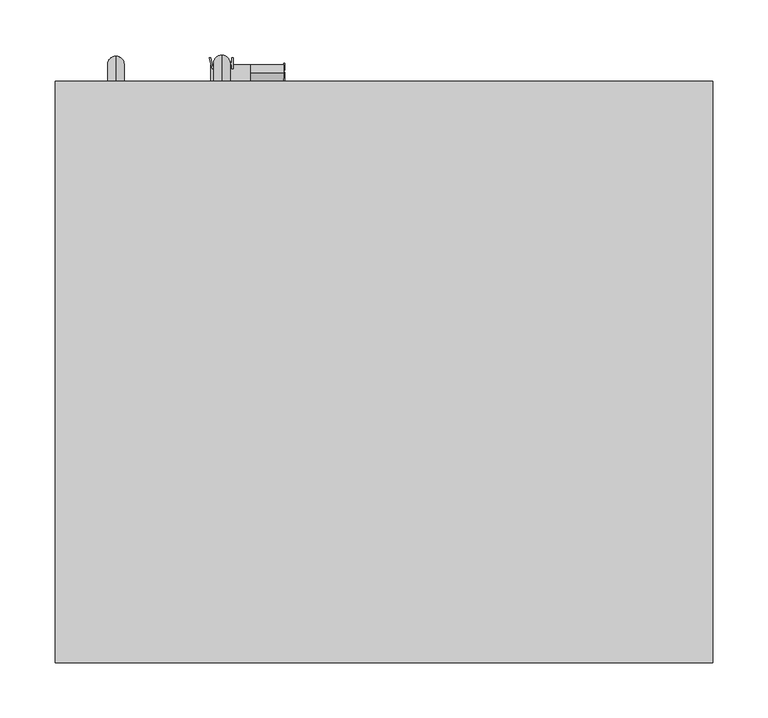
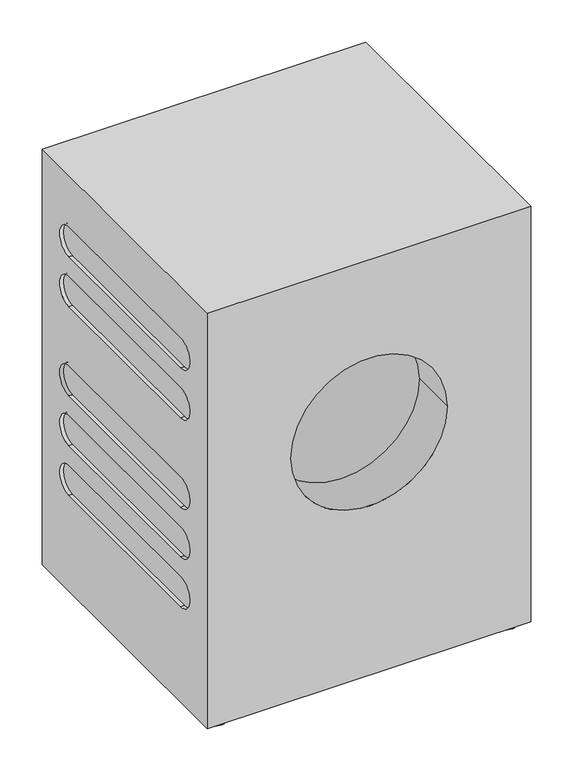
"""IFC4 building model written with IfcOpenShell, lengths in millimetres: proxy geometry, 12149030_GB_WED164WCS_LW : 11ED1641_GB_12149030_WED164WCS_LW."""

from ifc_helpers import new_model, si_unit, point, frame, frame_2d, origin, origin_with_axes, place, context, project, spatial, polyline, circle_curve, ellipse_curve, trimmed, segment, composite_curve, outline, extrude, source, transform, mapped, element, save
from ifc_brep_helpers import plane_surface, cylinder_surface, revolved_surface, advanced_brep


def specialty_equipment_4a6f3dc0(model_context):
    return source(origin(), model_context, "Body", "SolidModel", [
        extrude(outline(polyline([(-149.0371951, -21.0084005), (-151.6315375, -12.2193606), (-154.3585613, -21.0080758), (-155.6936613, -21.0080758), (-158.4385926, -10.9516208), (-157.1428433, -10.9516208), (-155.0531898, -19.5918192), (-152.5429567, -10.9458994), (-150.6799918, -10.9458994), (-148.1641319, -19.590755), (-146.0770725, -10.9449641), (-144.784355, -10.9449641), (-147.5264421, -21.0084005), (-149.0371951, -21.0084005)])), frame((0.0, 0.0, 728.0), z_axis=(0.0, 0.0, 1.0), x_axis=(1.0, 0.0, 0.0)), (0.0, 0.0, 1.0), 1.0),
        extrude(outline(polyline([(-137.7520367, -21.0), (-137.7520367, -17.5380382), (-139.4320631, -15.9333791), (-143.267056, -20.9969068), (-144.8092352, -20.9969068), (-140.3268814, -15.0786372), (-144.6471582, -10.9521715), (-142.8938795, -10.9521715), (-137.7520367, -15.8633471), (-137.7520367, -10.9502531), (-136.4793974, -10.9502531), (-136.4793974, -21.0), (-137.7520367, -21.0)])), frame((0.0, 0.0, 728.0), z_axis=(0.0, 0.0, 1.0), x_axis=(1.0, 0.0, 0.0)), (0.0, 0.0, 1.0), 1.0),
        advanced_brep(
        [(-243.0, -32.0, 760.5), (-243.0, -32.0, 745.5), (-243.0, -9.5, 760.5), (-243.0, -24.5, 745.5), (-243.0, -9.5, 723.0), (-243.0, -24.5, 723.0)],
        [
            (0, 1, circle_curve(frame((-243.0, -32.0, 753.0), z_axis=(0.0, -1.0, 0.0), x_axis=(0.0, 0.0, -1.0)), 7.5)),
            (1, 0, circle_curve(frame((-243.0, -32.0, 753.0), z_axis=(0.0, -1.0, 0.0), x_axis=(0.0, 0.0, -1.0)), 7.5)),
            (0, 2),
            (2, 3, ellipse_curve(frame((-243.0, -17.0, 753.0), z_axis=(0.0, -0.7071067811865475, 0.7071067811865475), x_axis=(0.0, -0.7071067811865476, -0.7071067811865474)), 10.6066017, 7.5)),
            (3, 1),
            (3, 2, ellipse_curve(frame((-243.0, -17.0, 753.0), z_axis=(0.0, -0.7071067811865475, 0.7071067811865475), x_axis=(0.0, -0.7071067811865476, -0.7071067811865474)), 10.6066017, 7.5)),
            (4, 5, circle_curve(frame((-243.0, -17.0, 723.0), z_axis=(0.0, 0.0, -1.0), x_axis=(0.0, -1.0, 0.0)), 7.5)),
            (5, 4, circle_curve(frame((-243.0, -17.0, 723.0), z_axis=(0.0, 0.0, -1.0), x_axis=(0.0, -1.0, 0.0)), 7.5)),
            (2, 4),
            (5, 3),
        ],
        [
            plane_surface(frame((-243.0, -32.0, 753.0), z_axis=(0.0, -1.0, 0.0), x_axis=(-1.0, 0.0, 0.0))),
            cylinder_surface(frame((-243.0, -32.0, 753.0), z_axis=(0.0, -1.0, 0.0), x_axis=(0.0, 0.0, -1.0)), 7.5),
            plane_surface(frame((-243.0, -17.0, 723.0), z_axis=(0.0, 0.0, -1.0), x_axis=(-1.0, 0.0, 0.0))),
            cylinder_surface(frame((-243.0, -17.0, 753.0), z_axis=(0.0, 0.0, 1.0), x_axis=(0.0, -1.0, 0.0)), 7.5),
        ],
        [
            (0, [[1, 2]]),
            (1, [[-1, 3, 4, 5]]),
            (1, [[-2, -5, 6, -3]]),
            (2, [[7, 8]]),
            (3, [[-4, 9, -8, 10]]),
            (3, [[-6, -10, -7, -9]]),
        ],
    ),
        advanced_brep(
        [(-147.0, -32.0, 766.5), (-147.0, -32.0, 751.5), (-147.0, -8.5, 766.5), (-147.0, -23.5, 751.5), (-147.0, -8.5, 729.0), (-147.0, -23.5, 729.0)],
        [
            (0, 1, circle_curve(frame((-147.0, -32.0, 759.0), z_axis=(0.0, -1.0, 0.0), x_axis=(0.0, 0.0, -1.0)), 7.5)),
            (1, 0, circle_curve(frame((-147.0, -32.0, 759.0), z_axis=(0.0, -1.0, 0.0), x_axis=(0.0, 0.0, -1.0)), 7.5)),
            (0, 2),
            (2, 3, ellipse_curve(frame((-147.0, -16.0, 759.0), z_axis=(0.0, -0.70710678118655, 0.707106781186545), x_axis=(0.0, -0.7071067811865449, -0.70710678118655)), 10.6066017, 7.5)),
            (3, 1),
            (3, 2, ellipse_curve(frame((-147.0, -16.0, 759.0), z_axis=(0.0, -0.70710678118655, 0.707106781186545), x_axis=(0.0, -0.7071067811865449, -0.70710678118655)), 10.6066017, 7.5)),
            (4, 5, circle_curve(frame((-147.0, -16.0, 729.0), z_axis=(0.0, 0.0, -1.0), x_axis=(0.0, -1.0, 0.0)), 7.5)),
            (5, 4, circle_curve(frame((-147.0, -16.0, 729.0), z_axis=(0.0, 0.0, -1.0), x_axis=(0.0, -1.0, 0.0)), 7.5)),
            (2, 4),
            (5, 3),
        ],
        [
            plane_surface(frame((-147.0, -32.0, 759.0), z_axis=(0.0, -1.0, 0.0), x_axis=(-1.0, 0.0, 0.0))),
            cylinder_surface(frame((-147.0, -32.0, 759.0), z_axis=(0.0, -1.0, 0.0), x_axis=(0.0, 0.0, -1.0)), 7.5),
            plane_surface(frame((-147.0, -16.0, 729.0), z_axis=(0.0, 0.0, -1.0), x_axis=(-1.0, 0.0, 0.0))),
            cylinder_surface(frame((-147.0, -16.0, 759.0), z_axis=(0.0, 0.0, 1.0), x_axis=(0.0, -1.0, 0.0)), 7.5),
        ],
        [
            (0, [[1, 2]]),
            (1, [[-1, 3, 4, 5]]),
            (1, [[-2, -5, 6, -3]]),
            (2, [[7, 8]]),
            (3, [[-4, 9, -8, 10]]),
            (3, [[-6, -10, -7, -9]]),
        ],
    ),
        extrude(outline(polyline([(-24.1489694, 55.8141378), (-30.1201763, 55.8141378), (-30.1201763, 52.8005704), (-24.4569949, 52.8005704), (-24.4569949, 51.521084), (-30.1201763, 51.521084), (-30.1201763, 48.2496698), (-23.9879713, 48.2496698), (-23.9879713, 46.9701834), (-31.3464231, 46.9701834), (-31.3464231, 57.0455767), (-24.1489694, 57.0455767), (-24.1489694, 55.8141378)])), frame((-91.0, 0.0, 0.0), z_axis=(1.0, 0.0, 0.0), x_axis=(0.0, 1.0, 0.0)), (0.0, 0.0, 1.0), 1.0),
        extrude(outline(polyline([(-20.8531587, 57.0429653), (-20.8531587, 48.2519801), (-15.8267296, 48.2519801), (-15.8267296, 46.9971234), (-22.1029105, 46.9971234), (-22.1029105, 57.0429653), (-20.8531587, 57.0429653)])), frame((-91.0, 0.0, 0.0), z_axis=(1.0, 0.0, 0.0), x_axis=(0.0, 1.0, 0.0)), (0.0, 0.0, 1.0), 1.0),
        extrude(outline(composite_curve([segment(trimmed(circle_curve(frame_2d((-24.5, 52.0)), 7.5), [point((-24.5, 44.5))], [point((-24.5, 59.5))], False, "CARTESIAN"), True, "CONTINUOUS"), segment(trimmed(circle_curve(frame_2d((-24.5, 52.0)), 7.5), [point((-24.5, 59.5))], [point((-24.5, 44.5))], False, "CARTESIAN"), True, "CONTINUOUS")], self_intersect=False)), frame((-121.0, 0.0, 0.0), z_axis=(1.0, 0.0, 0.0), x_axis=(0.0, 1.0, 0.0)), (0.0, 0.0, 1.0), 30.0),
        extrude(outline(polyline([(-157.0, -17.0), (-121.0, -17.0), (-121.0, -32.0), (-157.0, -32.0), (-157.0, -17.0)])), frame((0.0, 0.0, 38.5), z_axis=(0.0, 0.0, 1.0), x_axis=(1.0, 0.0, 0.0)), (0.0, 0.0, 1.0), 27.0),
        advanced_brep(
        [(298.0, -32.0, 818.0), (-298.0, -32.0, 818.0), (-298.0, -559.0, 818.0), (298.0, -559.0, 818.0), (298.0, -32.0, 8.0), (298.0, -559.0, 8.0), (-298.0, -559.0, 8.0), (-298.0, -32.0, 8.0), (-298.0, -117.0, 253.0), (-298.0, -474.0, 253.0), (-298.0, -474.0, 195.0), (-298.0, -117.0, 195.0), (-298.0, -117.0, 350.0), (-298.0, -474.0, 350.0), (-298.0, -474.0, 292.0), (-298.0, -117.0, 292.0), (-298.0, -474.0, 563.0), (-298.0, -117.0, 563.0), (-298.0, -117.0, 621.0), (-298.0, -474.0, 621.0), (-298.0, -117.0, 718.0), (-298.0, -474.0, 718.0), (-298.0, -474.0, 660.0), (-298.0, -117.0, 660.0), (-298.0, -117.0, 447.0), (-298.0, -474.0, 447.0), (-298.0, -474.0, 389.0), (-298.0, -117.0, 389.0), (144.0, -559.0, 482.0), (-144.0, -559.0, 482.0), (298.0, -474.0, 253.0), (298.0, -117.0, 253.0), (298.0, -117.0, 195.0), (298.0, -474.0, 195.0), (298.0, -474.0, 350.0), (298.0, -117.0, 350.0), (298.0, -117.0, 292.0), (298.0, -474.0, 292.0), (298.0, -117.0, 563.0), (298.0, -474.0, 563.0), (298.0, -474.0, 621.0), (298.0, -117.0, 621.0), (298.0, -474.0, 718.0), (298.0, -117.0, 718.0), (298.0, -117.0, 660.0), (298.0, -474.0, 660.0), (298.0, -474.0, 447.0), (298.0, -117.0, 447.0), (298.0, -117.0, 389.0), (298.0, -474.0, 389.0), (291.0, -117.0, 253.0), (291.0, -474.0, 253.0), (291.0, -474.0, 195.0), (291.0, -117.0, 195.0), (291.0, -117.0, 350.0), (291.0, -474.0, 350.0), (291.0, -474.0, 292.0), (291.0, -117.0, 292.0), (291.0, -474.0, 563.0), (291.0, -117.0, 563.0), (291.0, -117.0, 621.0), (291.0, -474.0, 621.0), (291.0, -117.0, 718.0), (291.0, -474.0, 718.0), (291.0, -474.0, 660.0), (291.0, -117.0, 660.0), (-291.0, -117.0, 253.0), (-291.0, -117.0, 195.0), (-291.0, -474.0, 195.0), (-291.0, -474.0, 253.0), (-291.0, -117.0, 350.0), (-291.0, -117.0, 292.0), (-291.0, -474.0, 292.0), (-291.0, -474.0, 350.0), (-291.0, -474.0, 563.0), (-291.0, -474.0, 621.0), (-291.0, -117.0, 621.0), (-291.0, -117.0, 563.0), (-291.0, -117.0, 718.0), (-291.0, -117.0, 660.0), (-291.0, -474.0, 660.0), (-291.0, -474.0, 718.0), (-144.0, -471.0, 482.0), (144.0, -471.0, 482.0), (240.0, -148.0, 482.0), (-240.0, -148.0, 482.0), (240.0, -471.0, 482.0), (-240.0, -471.0, 482.0), (291.0, -117.0, 447.0), (291.0, -474.0, 447.0), (291.0, -474.0, 389.0), (291.0, -117.0, 389.0), (-291.0, -117.0, 447.0), (-291.0, -117.0, 389.0), (-291.0, -474.0, 389.0), (-291.0, -474.0, 447.0)],
        [
            (0, 1),
            (1, 2),
            (2, 3),
            (3, 0),
            (4, 5),
            (5, 6),
            (6, 7),
            (7, 4),
            (0, 4),
            (7, 1),
            (6, 2),
            (8, 9),
            (9, 10, circle_curve(frame((-298.0, -474.0, 224.0), z_axis=(1.0, 0.0, 0.0), x_axis=(0.0, 0.0, 1.0)), 29.0)),
            (10, 11),
            (11, 8, circle_curve(frame((-298.0, -117.0, 224.0), z_axis=(1.0, 0.0, 0.0), x_axis=(0.0, 0.0, 1.0)), 29.0)),
            (12, 13),
            (13, 14, circle_curve(frame((-298.0, -474.0, 321.0), z_axis=(1.0, 0.0, 0.0), x_axis=(0.0, 0.0, 1.0)), 29.0)),
            (14, 15),
            (15, 12, circle_curve(frame((-298.0, -117.0, 321.0), z_axis=(1.0, 0.0, 0.0), x_axis=(0.0, 0.0, 1.0)), 29.0)),
            (16, 17),
            (17, 18, circle_curve(frame((-298.0, -117.0, 592.0), z_axis=(1.0, 0.0, 0.0), x_axis=(0.0, 0.0, 1.0)), 29.0)),
            (18, 19),
            (19, 16, circle_curve(frame((-298.0, -474.0, 592.0), z_axis=(1.0, 0.0, 0.0), x_axis=(0.0, 0.0, 1.0)), 29.0)),
            (20, 21),
            (21, 22, circle_curve(frame((-298.0, -474.0, 689.0), z_axis=(1.0, 0.0, 0.0), x_axis=(0.0, 0.0, 1.0)), 29.0)),
            (22, 23),
            (23, 20, circle_curve(frame((-298.0, -117.0, 689.0), z_axis=(1.0, 0.0, 0.0), x_axis=(0.0, 0.0, 1.0)), 29.0)),
            (24, 25),
            (25, 26, circle_curve(frame((-298.0, -474.0, 418.0), z_axis=(1.0, 0.0, 0.0), x_axis=(0.0, 0.0, -1.0)), 29.0)),
            (26, 27),
            (27, 24, circle_curve(frame((-298.0, -117.0, 418.0), z_axis=(1.0, 0.0, 0.0), x_axis=(0.0, 0.0, -1.0)), 29.0)),
            (5, 3),
            (28, 29, circle_curve(frame((0.0, -559.0, 482.0), z_axis=(0.0, 1.0, 0.0), x_axis=(-1.0, 0.0, 0.0)), 144.0)),
            (29, 28, circle_curve(frame((0.0, -559.0, 482.0), z_axis=(0.0, 1.0, 0.0), x_axis=(-1.0, 0.0, 0.0)), 144.0)),
            (30, 31),
            (31, 32, circle_curve(frame((298.0, -117.0, 224.0), z_axis=(-1.0, 0.0, 0.0), x_axis=(0.0, 0.0, 1.0)), 29.0)),
            (32, 33),
            (33, 30, circle_curve(frame((298.0, -474.0, 224.0), z_axis=(-1.0, 0.0, 0.0), x_axis=(0.0, 0.0, 1.0)), 29.0)),
            (34, 35),
            (35, 36, circle_curve(frame((298.0, -117.0, 321.0), z_axis=(-1.0, 0.0, 0.0), x_axis=(0.0, 0.0, 1.0)), 29.0)),
            (36, 37),
            (37, 34, circle_curve(frame((298.0, -474.0, 321.0), z_axis=(-1.0, 0.0, 0.0), x_axis=(0.0, 0.0, 1.0)), 29.0)),
            (38, 39),
            (39, 40, circle_curve(frame((298.0, -474.0, 592.0), z_axis=(-1.0, 0.0, 0.0), x_axis=(0.0, 0.0, 1.0)), 29.0)),
            (40, 41),
            (41, 38, circle_curve(frame((298.0, -117.0, 592.0), z_axis=(-1.0, 0.0, 0.0), x_axis=(0.0, 0.0, 1.0)), 29.0)),
            (42, 43),
            (43, 44, circle_curve(frame((298.0, -117.0, 689.0), z_axis=(-1.0, 0.0, 0.0), x_axis=(0.0, 0.0, 1.0)), 29.0)),
            (44, 45),
            (45, 42, circle_curve(frame((298.0, -474.0, 689.0), z_axis=(-1.0, 0.0, 0.0), x_axis=(0.0, 0.0, 1.0)), 29.0)),
            (46, 47),
            (47, 48, circle_curve(frame((298.0, -117.0, 418.0), z_axis=(-1.0, 0.0, 0.0), x_axis=(0.0, 0.0, -1.0)), 29.0)),
            (48, 49),
            (49, 46, circle_curve(frame((298.0, -474.0, 418.0), z_axis=(-1.0, 0.0, 0.0), x_axis=(0.0, 0.0, -1.0)), 29.0)),
            (50, 51),
            (51, 52, circle_curve(frame((291.0, -474.0, 224.0), z_axis=(1.0, 0.0, 0.0), x_axis=(0.0, 0.0, 1.0)), 29.0)),
            (52, 53),
            (53, 50, circle_curve(frame((291.0, -117.0, 224.0), z_axis=(1.0, 0.0, 0.0), x_axis=(0.0, 0.0, 1.0)), 29.0)),
            (54, 55),
            (55, 56, circle_curve(frame((291.0, -474.0, 321.0), z_axis=(1.0, 0.0, 0.0), x_axis=(0.0, 0.0, 1.0)), 29.0)),
            (56, 57),
            (57, 54, circle_curve(frame((291.0, -117.0, 321.0), z_axis=(1.0, 0.0, 0.0), x_axis=(0.0, 0.0, 1.0)), 29.0)),
            (58, 59),
            (59, 60, circle_curve(frame((291.0, -117.0, 592.0), z_axis=(1.0, 0.0, 0.0), x_axis=(0.0, 0.0, 1.0)), 29.0)),
            (60, 61),
            (61, 58, circle_curve(frame((291.0, -474.0, 592.0), z_axis=(1.0, 0.0, 0.0), x_axis=(0.0, 0.0, 1.0)), 29.0)),
            (62, 63),
            (63, 64, circle_curve(frame((291.0, -474.0, 689.0), z_axis=(1.0, 0.0, 0.0), x_axis=(0.0, 0.0, 1.0)), 29.0)),
            (64, 65),
            (65, 62, circle_curve(frame((291.0, -117.0, 689.0), z_axis=(1.0, 0.0, 0.0), x_axis=(0.0, 0.0, 1.0)), 29.0)),
            (50, 31),
            (30, 51),
            (33, 52),
            (32, 53),
            (54, 35),
            (34, 55),
            (37, 56),
            (36, 57),
            (58, 39),
            (38, 59),
            (41, 60),
            (40, 61),
            (62, 43),
            (42, 63),
            (45, 64),
            (44, 65),
            (66, 67, circle_curve(frame((-291.0, -117.0, 224.0), z_axis=(-1.0, 0.0, 0.0), x_axis=(0.0, 0.0, 1.0)), 29.0)),
            (67, 68),
            (68, 69, circle_curve(frame((-291.0, -474.0, 224.0), z_axis=(-1.0, 0.0, 0.0), x_axis=(0.0, 0.0, 1.0)), 29.0)),
            (69, 66),
            (70, 71, circle_curve(frame((-291.0, -117.0, 321.0), z_axis=(-1.0, 0.0, 0.0), x_axis=(0.0, 0.0, 1.0)), 29.0)),
            (71, 72),
            (72, 73, circle_curve(frame((-291.0, -474.0, 321.0), z_axis=(-1.0, 0.0, 0.0), x_axis=(0.0, 0.0, 1.0)), 29.0)),
            (73, 70),
            (74, 75, circle_curve(frame((-291.0, -474.0, 592.0), z_axis=(-1.0, 0.0, 0.0), x_axis=(0.0, 0.0, 1.0)), 29.0)),
            (75, 76),
            (76, 77, circle_curve(frame((-291.0, -117.0, 592.0), z_axis=(-1.0, 0.0, 0.0), x_axis=(0.0, 0.0, 1.0)), 29.0)),
            (77, 74),
            (78, 79, circle_curve(frame((-291.0, -117.0, 689.0), z_axis=(-1.0, 0.0, 0.0), x_axis=(0.0, 0.0, 1.0)), 29.0)),
            (79, 80),
            (80, 81, circle_curve(frame((-291.0, -474.0, 689.0), z_axis=(-1.0, 0.0, 0.0), x_axis=(0.0, 0.0, 1.0)), 29.0)),
            (81, 78),
            (69, 9),
            (8, 66),
            (68, 10),
            (67, 11),
            (73, 13),
            (12, 70),
            (72, 14),
            (71, 15),
            (77, 17),
            (16, 74),
            (76, 18),
            (75, 19),
            (81, 21),
            (20, 78),
            (80, 22),
            (79, 23),
            (82, 29),
            (28, 83),
            (83, 82, circle_curve(frame((0.0, -471.0, 482.0), z_axis=(0.0, 1.0, 0.0), x_axis=(-1.0, 0.0, 0.0)), 144.0)),
            (82, 83, circle_curve(frame((0.0, -471.0, 482.0), z_axis=(0.0, 1.0, 0.0), x_axis=(-1.0, 0.0, 0.0)), 144.0)),
            (84, 85, circle_curve(frame((0.0, -148.0, 482.0), z_axis=(0.0, -1.0, 0.0), x_axis=(-1.0, 0.0, 0.0)), 240.0)),
            (85, 84, circle_curve(frame((0.0, -148.0, 482.0), z_axis=(0.0, -1.0, 0.0), x_axis=(-1.0, 0.0, 0.0)), 240.0)),
            (86, 87, circle_curve(frame((0.0, -471.0, 482.0), z_axis=(0.0, 1.0, 0.0), x_axis=(-1.0, 0.0, 0.0)), 240.0)),
            (87, 86, circle_curve(frame((0.0, -471.0, 482.0), z_axis=(0.0, 1.0, 0.0), x_axis=(-1.0, 0.0, 0.0)), 240.0)),
            (85, 87),
            (86, 84),
            (88, 89),
            (89, 90, circle_curve(frame((291.0, -474.0, 418.0), z_axis=(1.0, 0.0, 0.0), x_axis=(0.0, 0.0, -1.0)), 29.0)),
            (90, 91),
            (91, 88, circle_curve(frame((291.0, -117.0, 418.0), z_axis=(1.0, 0.0, 0.0), x_axis=(0.0, 0.0, -1.0)), 29.0)),
            (88, 47),
            (46, 89),
            (49, 90),
            (48, 91),
            (92, 93, circle_curve(frame((-291.0, -117.0, 418.0), z_axis=(-1.0, 0.0, 0.0), x_axis=(0.0, 0.0, -1.0)), 29.0)),
            (93, 94),
            (94, 95, circle_curve(frame((-291.0, -474.0, 418.0), z_axis=(-1.0, 0.0, 0.0), x_axis=(0.0, 0.0, -1.0)), 29.0)),
            (95, 92),
            (95, 25),
            (24, 92),
            (94, 26),
            (93, 27),
        ],
        [
            plane_surface(frame((-298.0, -32.0, 818.0), z_axis=(0.0, 0.0, 1.0), x_axis=(-1.0, 0.0, 0.0))),
            plane_surface(frame((-298.0, -32.0, 8.0), z_axis=(0.0, 0.0, -1.0), x_axis=(1.0, 0.0, 0.0))),
            plane_surface(frame((298.0, -32.0, 818.0), z_axis=(0.0, 1.0, 0.0), x_axis=(0.0, 0.0, -1.0))),
            plane_surface(frame((-298.0, -32.0, 818.0), z_axis=(-1.0, 0.0, 0.0), x_axis=(0.0, 0.0, -1.0))),
            plane_surface(frame((-298.0, -559.0, 818.0), z_axis=(0.0, -1.0, 0.0), x_axis=(0.0, 0.0, -1.0))),
            plane_surface(frame((298.0, -559.0, 818.0), z_axis=(1.0, 0.0, 0.0), x_axis=(0.0, 0.0, -1.0))),
            plane_surface(frame((291.0, -474.0, 253.0), z_axis=(1.0, 0.0, 0.0), x_axis=(0.0, 1.0, 0.0))),
            plane_surface(frame((298.0, -117.0, 253.0), z_axis=(0.0, 0.0, -1.0), x_axis=(-1.0, 0.0, 0.0))),
            revolved_surface(polyline([(298.0, -474.0, 253.0), (291.0, -474.0, 253.0)]), (291.0, -474.0, 224.0), (1.0, 0.0, 0.0)),
            plane_surface(frame((298.0, -474.0, 195.0), z_axis=(0.0, 0.0, 1.0), x_axis=(-1.0, 0.0, 0.0))),
            revolved_surface(polyline([(298.0, -117.0, 253.0), (291.0, -117.0, 253.0)]), (291.0, -117.0, 224.0), (1.0, 0.0, 0.0)),
            plane_surface(frame((298.0, -117.0, 350.0), z_axis=(0.0, 0.0, -1.0), x_axis=(-1.0, 0.0, 0.0))),
            revolved_surface(polyline([(298.0, -474.0, 350.0), (291.0, -474.0, 350.0)]), (298.0, -474.0, 321.0), (1.0, 0.0, 0.0)),
            plane_surface(frame((298.0, -474.0, 292.0), z_axis=(0.0, 0.0, 1.0), x_axis=(-1.0, 0.0, 0.0))),
            revolved_surface(polyline([(298.0, -117.0, 350.0), (291.0, -117.0, 350.0)]), (298.0, -117.0, 321.0), (1.0, 0.0, 0.0)),
            plane_surface(frame((298.0, -474.0, 563.0), z_axis=(0.0, 0.0, 1.0), x_axis=(-1.0, 0.0, 0.0))),
            revolved_surface(polyline([(298.0, -117.0, 621.0), (291.0, -117.0, 621.0)]), (298.0, -117.0, 592.0), (1.0, 0.0, 0.0)),
            plane_surface(frame((298.0, -117.0, 621.0), z_axis=(0.0, 0.0, -1.0), x_axis=(-1.0, 0.0, 0.0))),
            revolved_surface(polyline([(298.0, -474.0, 621.0), (291.0, -474.0, 621.0)]), (298.0, -474.0, 592.0), (1.0, 0.0, 0.0)),
            plane_surface(frame((298.0, -117.0, 718.0), z_axis=(0.0, 0.0, -1.0), x_axis=(-1.0, 0.0, 0.0))),
            revolved_surface(polyline([(298.0, -474.0, 718.0), (291.0, -474.0, 718.0)]), (298.0, -474.0, 689.0), (1.0, 0.0, 0.0)),
            plane_surface(frame((298.0, -474.0, 660.0), z_axis=(0.0, 0.0, 1.0), x_axis=(-1.0, 0.0, 0.0))),
            revolved_surface(polyline([(298.0, -117.0, 718.0), (291.0, -117.0, 718.0)]), (298.0, -117.0, 689.0), (1.0, 0.0, 0.0)),
            plane_surface(frame((-291.0, -474.0, 253.0), z_axis=(-1.0, 0.0, 0.0), x_axis=(0.0, -1.0, 0.0))),
            plane_surface(frame((-291.0, -117.0, 253.0), z_axis=(0.0, 0.0, -1.0), x_axis=(-1.0, 0.0, 0.0))),
            revolved_surface(polyline([(-291.0, -474.0, 253.0), (-298.0, -474.0, 253.0)]), (-298.0, -474.0, 224.0), (1.0, 0.0, 0.0)),
            plane_surface(frame((-291.0, -474.0, 195.0), z_axis=(0.0, 0.0, 1.0), x_axis=(-1.0, 0.0, 0.0))),
            revolved_surface(polyline([(-291.0, -117.0, 253.0), (-298.0, -117.0, 253.0)]), (-298.0, -117.0, 224.0), (1.0, 0.0, 0.0)),
            plane_surface(frame((-291.0, -117.0, 350.0), z_axis=(0.0, 0.0, -1.0), x_axis=(-1.0, 0.0, 0.0))),
            revolved_surface(polyline([(-291.0, -474.0, 350.0), (-298.0, -474.0, 350.0)]), (-298.0, -474.0, 321.0), (1.0, 0.0, 0.0)),
            plane_surface(frame((-291.0, -474.0, 292.0), z_axis=(0.0, 0.0, 1.0), x_axis=(-1.0, 0.0, 0.0))),
            revolved_surface(polyline([(-291.0, -117.0, 350.0), (-298.0, -117.0, 350.0)]), (-298.0, -117.0, 321.0), (1.0, 0.0, 0.0)),
            plane_surface(frame((-291.0, -474.0, 563.0), z_axis=(0.0, 0.0, 1.0), x_axis=(-1.0, 0.0, 0.0))),
            revolved_surface(polyline([(-291.0, -117.0, 621.0), (-298.0, -117.0, 621.0)]), (-298.0, -117.0, 592.0), (1.0, 0.0, 0.0)),
            plane_surface(frame((-291.0, -117.0, 621.0), z_axis=(0.0, 0.0, -1.0), x_axis=(-1.0, 0.0, 0.0))),
            revolved_surface(polyline([(-291.0, -474.0, 621.0), (-298.0, -474.0, 621.0)]), (-298.0, -474.0, 592.0), (1.0, 0.0, 0.0)),
            plane_surface(frame((-291.0, -117.0, 718.0), z_axis=(0.0, 0.0, -1.0), x_axis=(-1.0, 0.0, 0.0))),
            revolved_surface(polyline([(-291.0, -474.0, 718.0), (-298.0, -474.0, 718.0)]), (-298.0, -474.0, 689.0), (1.0, 0.0, 0.0)),
            plane_surface(frame((-291.0, -474.0, 660.0), z_axis=(0.0, 0.0, 1.0), x_axis=(-1.0, 0.0, 0.0))),
            revolved_surface(polyline([(-291.0, -117.0, 718.0), (-298.0, -117.0, 718.0)]), (-298.0, -117.0, 689.0), (1.0, 0.0, 0.0)),
            revolved_surface(polyline([(-144.0, -471.0, 482.0), (-144.0, -559.0, 482.0)]), (0.0, -559.0, 482.0), (0.0, 1.0, 0.0)),
            plane_surface(frame((-240.0, -148.0, 482.0), z_axis=(0.0, -1.0, 0.0), x_axis=(0.0, 0.0, 1.0))),
            plane_surface(frame((-240.0, -471.0, 482.0), z_axis=(0.0, 1.0, 0.0), x_axis=(0.0, 0.0, -1.0))),
            revolved_surface(polyline([(-240.0, -148.0, 482.0), (-240.0, -471.0, 482.0)]), (0.0, -471.0, 482.0), (0.0, 1.0, 0.0)),
            plane_surface(frame((291.0, -117.0, 389.0), z_axis=(1.0, 0.0, 0.0), x_axis=(0.0, -1.0, 0.0))),
            plane_surface(frame((291.0, -474.0, 447.0), z_axis=(0.0, 0.0, -1.0), x_axis=(1.0, 0.0, 0.0))),
            revolved_surface(polyline([(291.0, -474.0, 389.0), (298.0, -474.0, 389.0)]), (308.0, -474.0, 418.0), (-1.0, 0.0, 0.0)),
            plane_surface(frame((291.0, -117.0, 389.0), z_axis=(0.0, 0.0, 1.0), x_axis=(1.0, 0.0, 0.0))),
            revolved_surface(polyline([(291.0, -117.0, 389.0), (298.0, -117.0, 389.0)]), (308.0, -117.0, 418.0), (-1.0, 0.0, 0.0)),
            plane_surface(frame((-291.0, -117.0, 389.0), z_axis=(-1.0, 0.0, 0.0), x_axis=(0.0, 1.0, 0.0))),
            plane_surface(frame((-308.0, -474.0, 447.0), z_axis=(0.0, 0.0, -1.0), x_axis=(1.0, 0.0, 0.0))),
            revolved_surface(polyline([(-298.0, -474.0, 389.0), (-291.0, -474.0, 389.0)]), (-291.0, -474.0, 418.0), (-1.0, 0.0, 0.0)),
            plane_surface(frame((-308.0, -117.0, 389.0), z_axis=(0.0, 0.0, 1.0), x_axis=(1.0, 0.0, 0.0))),
            revolved_surface(polyline([(-298.0, -117.0, 389.0), (-291.0, -117.0, 389.0)]), (-291.0, -117.0, 418.0), (-1.0, 0.0, 0.0)),
        ],
        [
            (0, [[1, 2, 3, 4]]),
            (1, [[5, 6, 7, 8]]),
            (2, [[-1, 9, -8, 10]]),
            (3, [[-2, -10, -7, 11], [12, 13, 14, 15], [16, 17, 18, 19], [20, 21, 22, 23], [24, 25, 26, 27], [28, 29, 30, 31]]),
            (4, [[-3, -11, -6, 32], [33, 34]]),
            (5, [[-4, -32, -5, -9], [35, 36, 37, 38], [39, 40, 41, 42], [43, 44, 45, 46], [47, 48, 49, 50], [51, 52, 53, 54]]),
            (6, [[55, 56, 57, 58]]),
            (6, [[59, 60, 61, 62]]),
            (6, [[63, 64, 65, 66]]),
            (6, [[67, 68, 69, 70]]),
            (7, [[-55, 71, -35, 72]]),
            (8, [[-56, -72, -38, 73]]),
            (9, [[-57, -73, -37, 74]]),
            (10, [[-58, -74, -36, -71]]),
            (11, [[-59, 75, -39, 76]]),
            (12, [[-60, -76, -42, 77]]),
            (13, [[-61, -77, -41, 78]]),
            (14, [[-62, -78, -40, -75]]),
            (15, [[-63, 79, -43, 80]]),
            (16, [[-64, -80, -46, 81]]),
            (17, [[-65, -81, -45, 82]]),
            (18, [[-66, -82, -44, -79]]),
            (19, [[-67, 83, -47, 84]]),
            (20, [[-68, -84, -50, 85]]),
            (21, [[-69, -85, -49, 86]]),
            (22, [[-70, -86, -48, -83]]),
            (23, [[87, 88, 89, 90]]),
            (23, [[91, 92, 93, 94]]),
            (23, [[95, 96, 97, 98]]),
            (23, [[99, 100, 101, 102]]),
            (24, [[-90, 103, -12, 104]]),
            (25, [[-89, 105, -13, -103]]),
            (26, [[-88, 106, -14, -105]]),
            (27, [[-87, -104, -15, -106]]),
            (28, [[-94, 107, -16, 108]]),
            (29, [[-93, 109, -17, -107]]),
            (30, [[-92, 110, -18, -109]]),
            (31, [[-91, -108, -19, -110]]),
            (32, [[-98, 111, -20, 112]]),
            (33, [[-97, 113, -21, -111]]),
            (34, [[-96, 114, -22, -113]]),
            (35, [[-95, -112, -23, -114]]),
            (36, [[-102, 115, -24, 116]]),
            (37, [[-101, 117, -25, -115]]),
            (38, [[-100, 118, -26, -117]]),
            (39, [[-99, -116, -27, -118]]),
            (40, [[119, -33, 120, 121]]),
            (40, [[-119, 122, -120, -34]]),
            (41, [[123, 124]]),
            (42, [[125, 126], [-121, -122]]),
            (43, [[-124, 127, -125, 128]]),
            (43, [[-123, -128, -126, -127]]),
            (44, [[129, 130, 131, 132]]),
            (45, [[-129, 133, -51, 134]]),
            (46, [[-130, -134, -54, 135]]),
            (47, [[-131, -135, -53, 136]]),
            (48, [[-132, -136, -52, -133]]),
            (49, [[137, 138, 139, 140]]),
            (50, [[-140, 141, -28, 142]]),
            (51, [[-139, 143, -29, -141]]),
            (52, [[-138, 144, -30, -143]]),
            (53, [[-137, -142, -31, -144]]),
        ],
    ),
        extrude(outline(composite_curve([segment(trimmed(circle_curve(frame_2d((-267.5, -61.0)), 20.0), [point((-247.5, -61.0))], [point((-287.5, -61.0))], False, "CARTESIAN"), True, "CONTINUOUS"), segment(trimmed(circle_curve(frame_2d((-267.5, -61.0)), 20.0), [point((-287.5, -61.0))], [point((-247.5, -61.0))], False, "CARTESIAN"), True, "CONTINUOUS")], self_intersect=False)), origin_with_axes(), (0.0, 0.0, 1.0), 8.0),
        extrude(outline(composite_curve([segment(trimmed(circle_curve(frame_2d((267.5, -61.0)), 20.0), [point((287.5, -61.0))], [point((247.5, -61.0))], False, "CARTESIAN"), True, "CONTINUOUS"), segment(trimmed(circle_curve(frame_2d((267.5, -61.0)), 20.0), [point((247.5, -61.0))], [point((287.5, -61.0))], False, "CARTESIAN"), True, "CONTINUOUS")], self_intersect=False)), origin_with_axes(), (0.0, 0.0, 1.0), 8.0),
        extrude(outline(composite_curve([segment(trimmed(circle_curve(frame_2d((267.5, -531.0)), 20.0), [point((287.5, -531.0))], [point((247.5, -531.0))], False, "CARTESIAN"), True, "CONTINUOUS"), segment(trimmed(circle_curve(frame_2d((267.5, -531.0)), 20.0), [point((247.5, -531.0))], [point((287.5, -531.0))], False, "CARTESIAN"), True, "CONTINUOUS")], self_intersect=False)), origin_with_axes(), (0.0, 0.0, 1.0), 8.0),
        extrude(outline(composite_curve([segment(trimmed(circle_curve(frame_2d((-267.5, -531.0)), 20.0), [point((-247.5, -531.0))], [point((-287.5, -531.0))], False, "CARTESIAN"), True, "CONTINUOUS"), segment(trimmed(circle_curve(frame_2d((-267.5, -531.0)), 20.0), [point((-287.5, -531.0))], [point((-247.5, -531.0))], False, "CARTESIAN"), True, "CONTINUOUS")], self_intersect=False)), origin_with_axes(), (0.0, 0.0, 1.0), 8.0),
    ])


if __name__ == "__main__":
    model = new_model("IFC4")
    model_context = context("Model", 3, world=origin())
    ifc_project = project(units=[si_unit("LENGTHUNIT", "METRE", prefix="MILLI")], contexts=[model_context])
    site = spatial("IfcSite", under=ifc_project)
    building = spatial("IfcBuilding", under=site)
    placement = place(None, origin())
    specialty_equipment_shape = specialty_equipment_4a6f3dc0(model_context)
    element("IfcBuildingElementProxy", 1, Name="12149030_GB_WED164WCS_LW : 11ED1641_GB_12149030_WED164WCS_LW", ObjectType="12149030_GB_WED164WCS_LW : 11ED1641_GB_12149030_WED164WCS_LW", at=placement, inside=building, context=model_context, shape_type="MappedRepresentation", body=[
        mapped(specialty_equipment_shape, transform((0.0, 0.0, 0.0), x_axis=(1.0, 0.0, 0.0), y_axis=(0.0, 1.0, 0.0), z_axis=(0.0, 0.0, 1.0))),
    ])
    save(model, "model.ifc")
